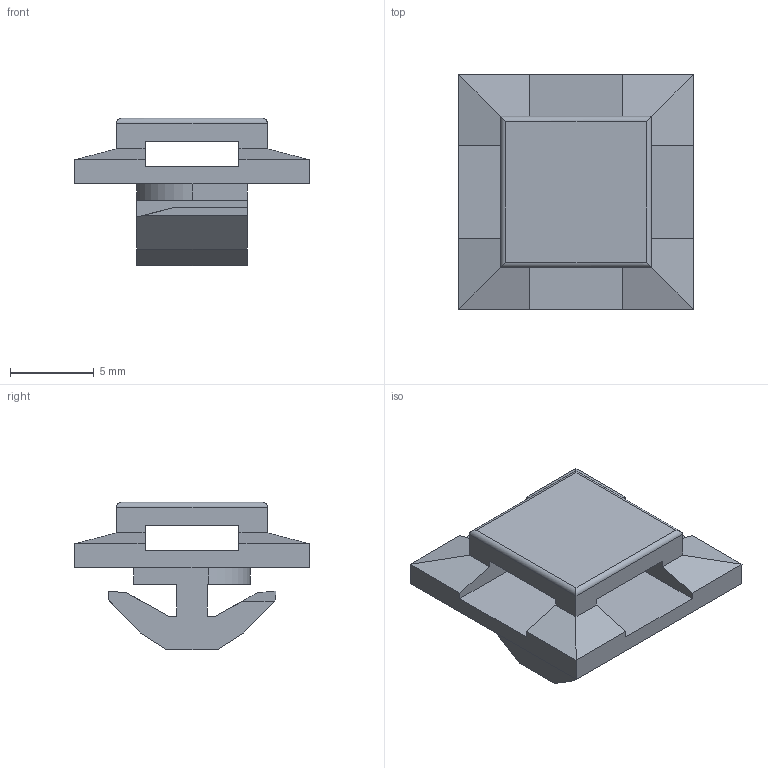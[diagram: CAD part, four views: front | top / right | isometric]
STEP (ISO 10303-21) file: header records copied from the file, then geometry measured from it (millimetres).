
FILE_DESCRIPTION(('STEP AP214'),'1');
FILE_NAME('T25K.stp','2016-10-18T01:25:19',(' '),(' '),'Spatial InterOp 3D',' ',' ');
FILE_SCHEMA(('automotive_design'));
Length unit declared in the file: millimetre
Products named in the file (1): T25K
Bounding box: 14 x 14 x 8.8 mm (x, y, z)
Volume: 545.3 mm3; surface area: 912.3 mm2
Topology: 1 solids, 1 shells, 59 faces, 174 edges, 112 vertices
Faces by surface type: plane 53, cylinder 6
Entity records: 2420 total; most frequent: ORIENTED_EDGE 348, CARTESIAN_POINT 346, DIRECTION 302, EDGE_CURVE 174, LINE 166, VECTOR 166, VERTEX_POINT 112, AXIS2_PLACEMENT_3D 68
